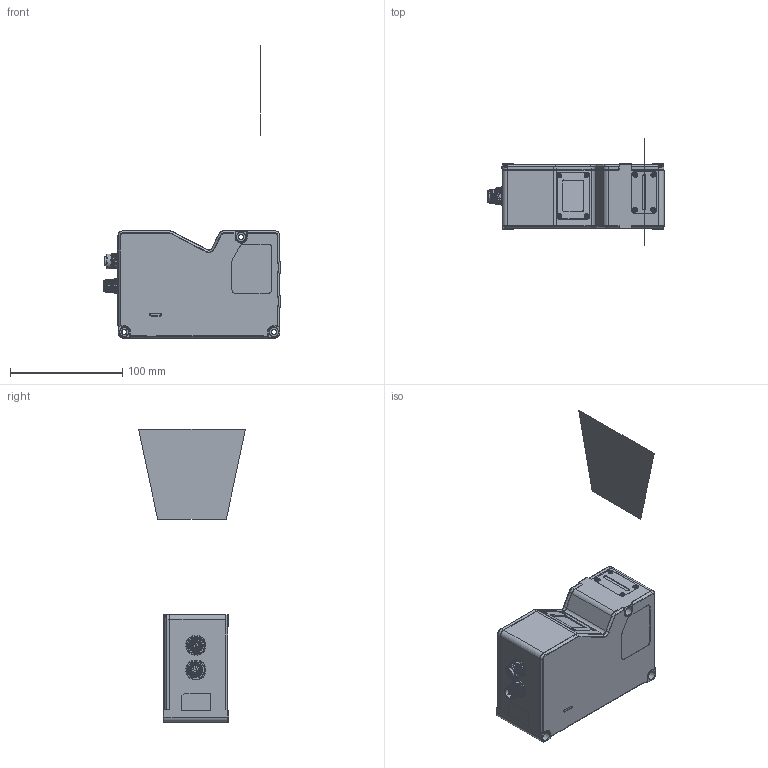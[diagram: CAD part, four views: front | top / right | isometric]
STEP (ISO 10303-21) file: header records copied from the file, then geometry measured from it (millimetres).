
FILE_DESCRIPTION((''),'2;1');
FILE_NAME('3120-2120-V2_0-SHELL_SW0002','2024-08-08T17:29:16',('liudeting'),(''),'CREO PARAMETRIC BY PTC INC, 2020044','CREO PARAMETRIC BY PTC INC, 2020044','');
FILE_SCHEMA(('CONFIG_CONTROL_DESIGN'));
Length unit declared in the file: millimetre
Products named in the file (1): 3120-2120-V2_0-SHELL_SW0002
Bounding box: 157.5 x 95 x 261 mm (x, y, z)
Surface area: 69853.3 mm2 (no closed solid volume)
Topology: 0 solids, 44 shells, 829 faces, 2683 edges, 1845 vertices
Faces by surface type: plane 257, cylinder 237, cone 202, torus 85, bspline 48
Entity records: 41026 total; most frequent: CARTESIAN_POINT 17950, DIRECTION 4779, ORIENTED_EDGE 4576, EDGE_CURVE 2663, VERTEX_POINT 1845, AXIS2_PLACEMENT_3D 1796, VECTOR 1187, LINE 1187
